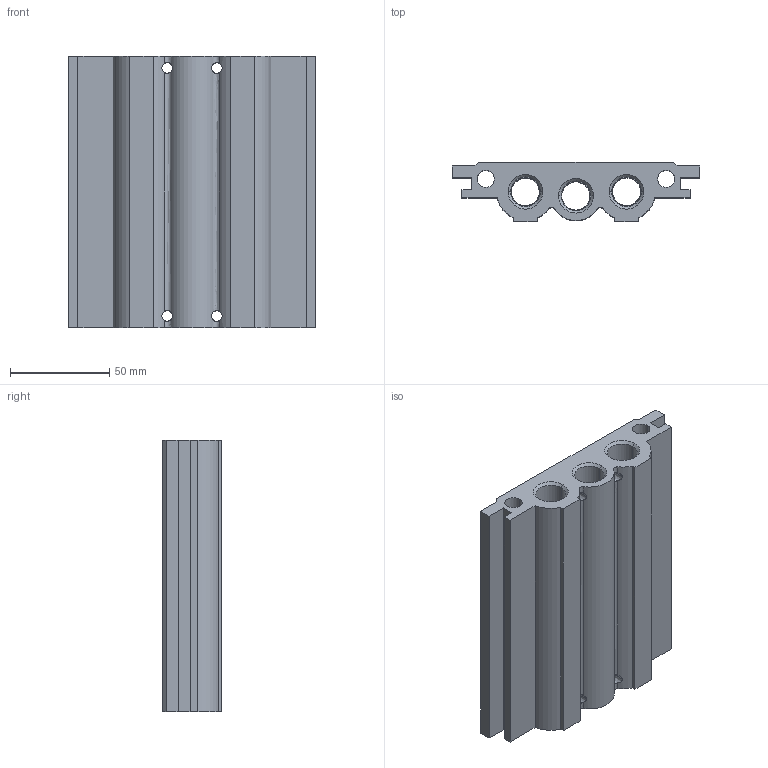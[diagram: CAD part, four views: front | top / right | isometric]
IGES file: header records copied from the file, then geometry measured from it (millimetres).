
Global section: file name: No Iges File Name specified; native system: AutoDesk Inventor R11.0; preprocessor: AutoDesk Inventor Iges Exporter R11.0; author: No Author specified; organization: No Organization specified; date: 20061201.115327; units: millimetre
Bounding box: 125 x 30 x 137 mm (x, y, z)
Volume: 281375.4 mm3; surface area: 81170.8 mm2
Topology: 1 solids, 1 shells, 200 faces, 528 edges, 348 vertices
Faces by surface type: bspline 139, revolution 28, plane 28, cylinder 5
